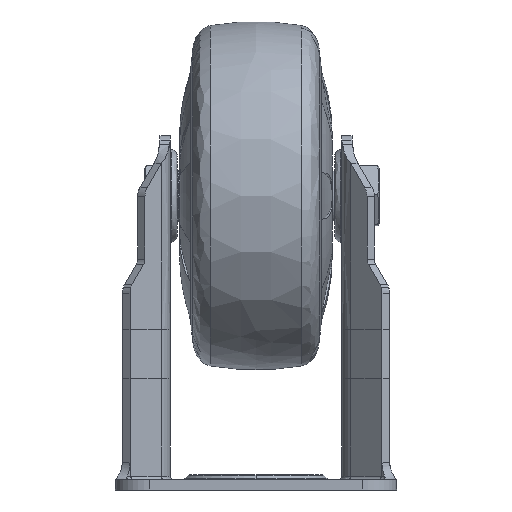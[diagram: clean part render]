
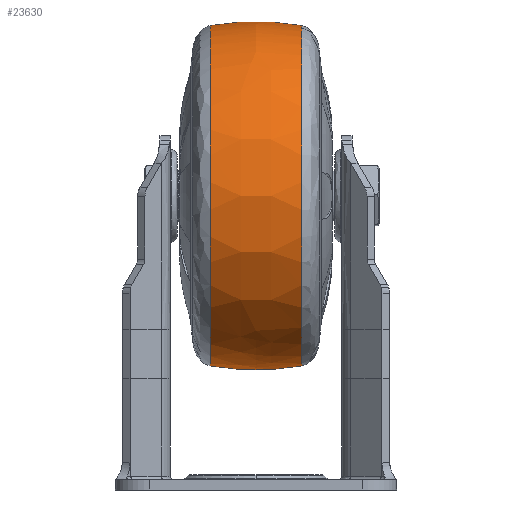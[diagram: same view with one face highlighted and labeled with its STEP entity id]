
A CAD part, left-side view. The second image highlights one B-rep face of the part: STEP entity #23630.
In plain terms, the highlighted free-form (B-spline) face has degree [3, 3] with [4, 4] control points.
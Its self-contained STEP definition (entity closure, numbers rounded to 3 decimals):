
#4025 = CARTESIAN_POINT ( 'NONE',  ( -65.392, -125.696, -4.452 ) ) ;
#4423 = CARTESIAN_POINT ( 'NONE',  ( -62.239, -24.881, 13.279 ) ) ;
#6260 = CARTESIAN_POINT ( 'NONE',  ( -62.239, -24.881, -13.279 ) ) ;
#9724 = CARTESIAN_POINT ( 'NONE',  ( 37., -24.881, -13.279 ) ) ;
#10916 = CARTESIAN_POINT ( 'NONE',  ( -62.239, -24.881, 13.279 ) ) ;
#10929 = CARTESIAN_POINT ( 'NONE',  ( 37., -124.119, -13.279 ) ) ;
#12348 = CARTESIAN_POINT ( 'NONE',  ( -62.239, -124.119, -13.279 ) ) ;
#13114 = CARTESIAN_POINT ( 'NONE',  ( 37., -23.304, -4.452 ) ) ;
#16694 =( BOUNDED_CURVE ( )  B_SPLINE_CURVE ( 3, ( #68086, #12348, #6260, #69309 ),
 .UNSPECIFIED., .F., .F. ) 
 B_SPLINE_CURVE_WITH_KNOTS ( ( 4, 4 ),
 ( 0., 1. ),
 .UNSPECIFIED. ) 
 CURVE ( )  GEOMETRIC_REPRESENTATION_ITEM ( )  RATIONAL_B_SPLINE_CURVE ( ( 1., 0.333, 0.333, 1. ) ) 
 REPRESENTATION_ITEM ( '' )  );
#18800 = CARTESIAN_POINT ( 'NONE',  ( 37., -24.881, -13.279 ) ) ;
#20151 = VERTEX_POINT ( 'NONE', #41800 ) ;
#21712 = ORIENTED_EDGE ( 'NONE', *, *, #60662, .T. ) ;
#23150 = FACE_OUTER_BOUND ( 'NONE', #59507, .T. ) ;
#23630 = ADVANCED_FACE ( 'NONE', ( #23150 ), #77409, .T. ) ;
#23811 = ORIENTED_EDGE ( 'NONE', *, *, #44408, .T. ) ;
#24945 = CARTESIAN_POINT ( 'NONE',  ( 37., -23.304, 4.452 ) ) ;
#25553 = EDGE_CURVE ( 'NONE', #63911, #20151, #35842, .T. ) ;
#28474 = CARTESIAN_POINT ( 'NONE',  ( -65.392, -125.696, 4.452 ) ) ;
#29274 = CARTESIAN_POINT ( 'NONE',  ( -62.239, -24.881, -13.279 ) ) ;
#29669 = CARTESIAN_POINT ( 'NONE',  ( -62.239, -124.119, -13.279 ) ) ;
#34135 = CARTESIAN_POINT ( 'NONE',  ( 37., -124.119, 13.279 ) ) ;
#35761 = CARTESIAN_POINT ( 'NONE',  ( 37., -23.304, 4.452 ) ) ;
#35842 =( BOUNDED_CURVE ( )  B_SPLINE_CURVE ( 3, ( #73550, #43805, #10916, #42598 ),
 .UNSPECIFIED., .F., .F. ) 
 B_SPLINE_CURVE_WITH_KNOTS ( ( 4, 4 ),
 ( 0., 1. ),
 .UNSPECIFIED. ) 
 CURVE ( )  GEOMETRIC_REPRESENTATION_ITEM ( )  RATIONAL_B_SPLINE_CURVE ( ( 0.508, 0.169, 0.169, 0.508 ) ) 
 REPRESENTATION_ITEM ( '' )  );
#41800 = CARTESIAN_POINT ( 'NONE',  ( 37., -24.881, 13.279 ) ) ;
#41823 = CARTESIAN_POINT ( 'NONE',  ( 37., -124.119, 13.279 ) ) ;
#42598 = CARTESIAN_POINT ( 'NONE',  ( 37., -24.881, 13.279 ) ) ;
#43805 = CARTESIAN_POINT ( 'NONE',  ( -62.239, -124.119, 13.279 ) ) ;
#44408 = EDGE_CURVE ( 'NONE', #63911, #67870, #62168, .T. ) ;
#52289 = CARTESIAN_POINT ( 'NONE',  ( 37., -124.119, 13.279 ) ) ;
#52851 = EDGE_CURVE ( 'NONE', #67870, #75026, #16694, .T. ) ;
#53226 = CARTESIAN_POINT ( 'NONE',  ( -65.392, -23.304, -4.452 ) ) ;
#58924 = CARTESIAN_POINT ( 'NONE',  ( 37., -125.696, 4.452 ) ) ;
#58967 = CARTESIAN_POINT ( 'NONE',  ( -65.392, -23.304, 4.452 ) ) ;
#59507 = EDGE_LOOP ( 'NONE', ( #23811, #75052, #21712, #65816 ) ) ;
#59741 = CARTESIAN_POINT ( 'NONE',  ( 37., -23.304, -4.452 ) ) ;
#60151 = CARTESIAN_POINT ( 'NONE',  ( 37., -125.696, -4.452 ) ) ;
#60546 = CARTESIAN_POINT ( 'NONE',  ( -62.239, -124.119, 13.279 ) ) ;
#60662 = EDGE_CURVE ( 'NONE', #75026, #20151, #71362, .T. ) ;
#62168 =( BOUNDED_CURVE ( )  B_SPLINE_CURVE ( 3, ( #34135, #58924, #77620, #71523 ),
 .UNSPECIFIED., .F., .F. ) 
 B_SPLINE_CURVE_WITH_KNOTS ( ( 4, 4 ),
 ( 0., 1. ),
 .UNSPECIFIED. ) 
 CURVE ( )  GEOMETRIC_REPRESENTATION_ITEM ( )  RATIONAL_B_SPLINE_CURVE ( ( 1., 0.994, 0.994, 1. ) ) 
 REPRESENTATION_ITEM ( '' )  );
#63554 = CARTESIAN_POINT ( 'NONE',  ( 37., -24.881, 13.279 ) ) ;
#63911 = VERTEX_POINT ( 'NONE', #52289 ) ;
#65454 = CARTESIAN_POINT ( 'NONE',  ( 37., -24.881, 13.279 ) ) ;
#65816 = ORIENTED_EDGE ( 'NONE', *, *, #25553, .F. ) ;
#66346 = CARTESIAN_POINT ( 'NONE',  ( 37., -24.881, -13.279 ) ) ;
#66663 = CARTESIAN_POINT ( 'NONE',  ( 37., -125.696, 4.452 ) ) ;
#67870 = VERTEX_POINT ( 'NONE', #76939 ) ;
#68086 = CARTESIAN_POINT ( 'NONE',  ( 37., -124.119, -13.279 ) ) ;
#69309 = CARTESIAN_POINT ( 'NONE',  ( 37., -24.881, -13.279 ) ) ;
#71362 =( BOUNDED_CURVE ( )  B_SPLINE_CURVE ( 3, ( #18800, #13114, #24945, #63554 ),
 .UNSPECIFIED., .F., .F. ) 
 B_SPLINE_CURVE_WITH_KNOTS ( ( 4, 4 ),
 ( 0., 1. ),
 .UNSPECIFIED. ) 
 CURVE ( )  GEOMETRIC_REPRESENTATION_ITEM ( )  RATIONAL_B_SPLINE_CURVE ( ( 1., 0.994, 0.994, 1. ) ) 
 REPRESENTATION_ITEM ( '' )  );
#71523 = CARTESIAN_POINT ( 'NONE',  ( 37., -124.119, -13.279 ) ) ;
#73550 = CARTESIAN_POINT ( 'NONE',  ( 37., -124.119, 13.279 ) ) ;
#75026 = VERTEX_POINT ( 'NONE', #66346 ) ;
#75052 = ORIENTED_EDGE ( 'NONE', *, *, #52851, .T. ) ;
#76939 = CARTESIAN_POINT ( 'NONE',  ( 37., -124.119, -13.279 ) ) ;
#77409 =( BOUNDED_SURFACE ( )  B_SPLINE_SURFACE ( 3, 3, ( 
 ( #41823, #60546, #4423, #65454 ),
 ( #66663, #28474, #58967, #35761 ),
 ( #60151, #4025, #53226, #59741 ),
 ( #10929, #29669, #29274, #9724 ) ),
 .UNSPECIFIED., .F., .F., .F. ) 
 B_SPLINE_SURFACE_WITH_KNOTS ( ( 4, 4 ),
 ( 4, 4 ),
 ( 0., 1. ),
 ( 0.5, 1. ),
 .UNSPECIFIED. ) 
 GEOMETRIC_REPRESENTATION_ITEM ( )  RATIONAL_B_SPLINE_SURFACE ( (
 ( 1., 0.333, 0.333, 1.),
 ( 0.994, 0.331, 0.331, 0.994),
 ( 0.994, 0.331, 0.331, 0.994),
 ( 1., 0.333, 0.333, 1.) ) ) 
 REPRESENTATION_ITEM ( '' )  SURFACE ( )  );
#77620 = CARTESIAN_POINT ( 'NONE',  ( 37., -125.696, -4.452 ) ) ;
